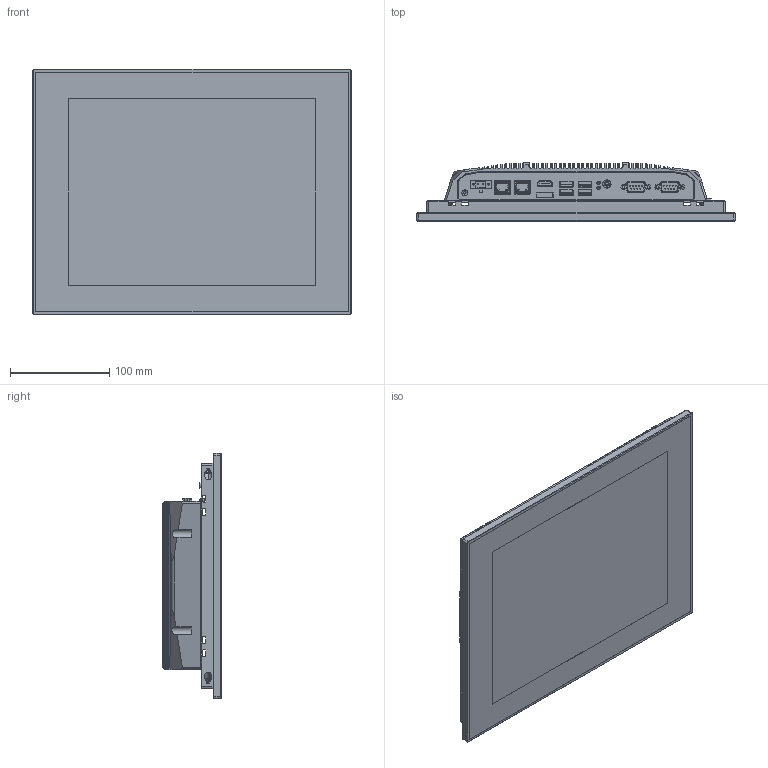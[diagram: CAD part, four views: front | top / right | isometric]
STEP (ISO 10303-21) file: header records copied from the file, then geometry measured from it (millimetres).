
FILE_DESCRIPTION (( 'STEP AP214' ), '1' );
FILE_NAME ('TPC-C121H-N S 3D蚾饜芞.STEP', '2024-08-21T06:41:21', ( 'demo' ), ( '' ), 'SwSTEP 2.0', 'SolidWorks 2016', '' );
FILE_SCHEMA (( 'AUTOMOTIVE_DESIGN' ));
Length unit declared in the file: millimetre
Products named in the file (1): TPC-C121H-N S 3D蚾饜芞
Bounding box: 321 x 58.5 x 247 mm (x, y, z)
Surface area: 408596.8 mm2 (no closed solid volume)
Topology: 0 solids, 77 shells, 2508 faces, 9225 edges, 6566 vertices
Faces by surface type: plane 1614, cylinder 796, cone 58, bspline 30, torus 10
Entity records: 126165 total; most frequent: CARTESIAN_POINT 23254, ORIENTED_EDGE 15374, DIRECTION 14576, EDGE_CURVE 9181, VECTOR 6764, LINE 6764, VERTEX_POINT 6566, AXIS2_PLACEMENT_3D 3906
